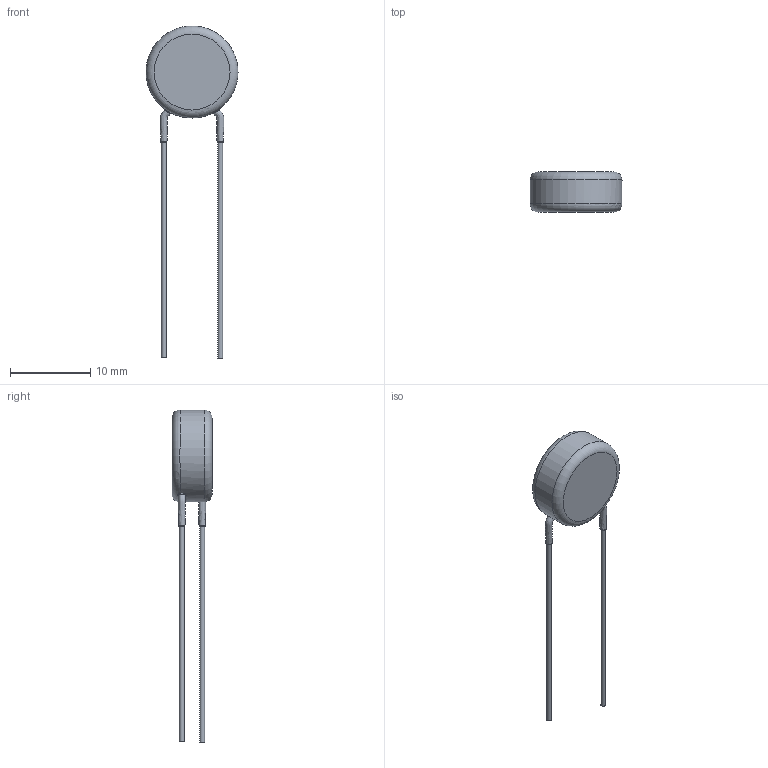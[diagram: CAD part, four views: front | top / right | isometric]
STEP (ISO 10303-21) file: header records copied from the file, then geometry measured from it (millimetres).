
FILE_DESCRIPTION(/* description */ (''),/* implementation_level */ '2;1');
FILE_NAME(/* name */ 'I:\Marketing\M6t1\3D-Models\Zchng-Werk-3\Upload for homepage\BCC neu\AY2 Straight\Step\AY2392#43Y5US63L7.stp',/* time_stamp */ '2023-07-13T14:08:53+02:00',/* author */ ('truediger'),/* organization */ (''),/* preprocessor_version */ 'ST-DEVELOPER v18',/* originating_system */ 'Autodesk Inventor 2020',/* authorisation */ '');
FILE_SCHEMA (('AUTOMOTIVE_DESIGN { 1 0 10303 214 3 1 1 }'));
Length unit declared in the file: millimetre
Products named in the file (1): Bauteil2
Bounding box: 11.5 x 5 x 41.5 mm (x, y, z)
Volume: 524.3 mm3; surface area: 479.4 mm2
Topology: 1 solids, 1 shells, 19 faces, 43 edges, 28 vertices
Faces by surface type: bspline 8, plane 6, cylinder 3, torus 2
Full cylindrical faces by diameter (mm): 0.6 x2, 11.5 x1
Entity records: 1662 total; most frequent: CARTESIAN_POINT 1201, ORIENTED_EDGE 86, DIRECTION 75, EDGE_CURVE 43, AXIS2_PLACEMENT_3D 36, VERTEX_POINT 28, CIRCLE 24, EDGE_LOOP 21
